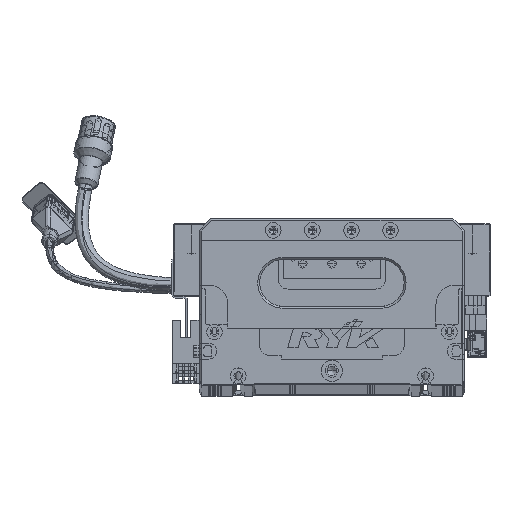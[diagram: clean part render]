
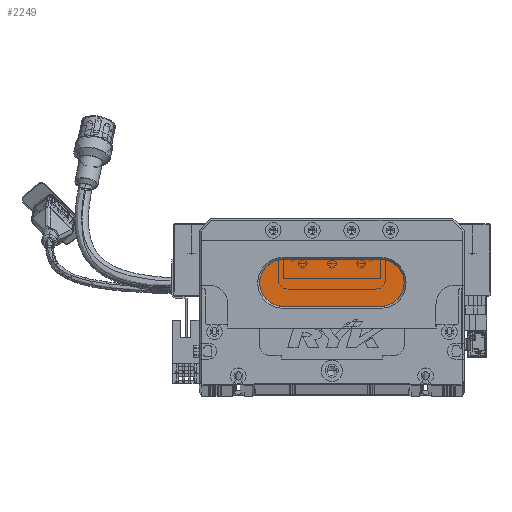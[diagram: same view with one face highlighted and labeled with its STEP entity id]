
A CAD part, top view. The second image highlights one B-rep face of the part: STEP entity #2249.
In plain terms, the highlighted planar face has unit normal (0, 0, 1) as drawn and (0, 0, -1) by its records, which use the part's own axes.
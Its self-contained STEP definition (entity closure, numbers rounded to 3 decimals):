
#2249 = ADVANCED_FACE ( 'NONE', ( #57504 ), #4765, .T. ) ;
#4765 = PLANE ( 'NONE',  #96975 ) ;
#8788 = ORIENTED_EDGE ( 'NONE', *, *, #10352, .T. ) ;
#8924 = CARTESIAN_POINT ( 'NONE',  ( 93., 64., 13. ) ) ;
#10352 = EDGE_CURVE ( 'NONE', #80430, #73986, #36398, .T. ) ;
#14093 = VECTOR ( 'NONE', #128668, 1000. ) ;
#19007 = DIRECTION ( 'NONE',  ( 0., 0., -1. ) ) ;
#22711 = CARTESIAN_POINT ( 'NONE',  ( 93., 40., 13. ) ) ;
#28627 = CARTESIAN_POINT ( 'NONE',  ( 43., 64., 13. ) ) ;
#36398 = CIRCLE ( 'NONE', #79054, 12. ) ;
#43542 = EDGE_CURVE ( 'NONE', #50135, #80430, #117055, .T. ) ;
#48972 = EDGE_CURVE ( 'NONE', #119338, #50135, #65618, .T. ) ;
#50135 = VERTEX_POINT ( 'NONE', #140867 ) ;
#50516 = CARTESIAN_POINT ( 'NONE',  ( 93., 64., 13. ) ) ;
#51837 = CARTESIAN_POINT ( 'NONE',  ( 93., 40., 13. ) ) ;
#53445 = ORIENTED_EDGE ( 'NONE', *, *, #48972, .T. ) ;
#57504 = FACE_OUTER_BOUND ( 'NONE', #66884, .T. ) ;
#59060 = AXIS2_PLACEMENT_3D ( 'NONE', #85844, #19007, #130753 ) ;
#60342 = VECTOR ( 'NONE', #84570, 1000. ) ;
#65618 = LINE ( 'NONE', #51837, #60342 ) ;
#66884 = EDGE_LOOP ( 'NONE', ( #111104, #53445, #92491, #8788, #78719 ) ) ;
#73873 = AXIS2_PLACEMENT_3D ( 'NONE', #135416, #79772, #113943 ) ;
#73986 = VERTEX_POINT ( 'NONE', #28627 ) ;
#74904 = EDGE_CURVE ( 'NONE', #115768, #119338, #125855, .T. ) ;
#78719 = ORIENTED_EDGE ( 'NONE', *, *, #86281, .T. ) ;
#79054 = AXIS2_PLACEMENT_3D ( 'NONE', #142756, #87101, #133008 ) ;
#79772 = DIRECTION ( 'NONE',  ( 0., 0., -1. ) ) ;
#80430 = VERTEX_POINT ( 'NONE', #105229 ) ;
#82838 = DIRECTION ( 'NONE',  ( 0., 0., -1. ) ) ;
#84570 = DIRECTION ( 'NONE',  ( -1., 0., 0. ) ) ;
#85844 = CARTESIAN_POINT ( 'NONE',  ( 43., 52., 13. ) ) ;
#86281 = EDGE_CURVE ( 'NONE', #73986, #115768, #130994, .T. ) ;
#87101 = DIRECTION ( 'NONE',  ( 0., 0., -1. ) ) ;
#92491 = ORIENTED_EDGE ( 'NONE', *, *, #43542, .T. ) ;
#96975 = AXIS2_PLACEMENT_3D ( 'NONE', #104379, #82838, #138020 ) ;
#104379 = CARTESIAN_POINT ( 'NONE',  ( 93., 52., 13. ) ) ;
#105229 = CARTESIAN_POINT ( 'NONE',  ( 31., 52., 13. ) ) ;
#111104 = ORIENTED_EDGE ( 'NONE', *, *, #74904, .T. ) ;
#113943 = DIRECTION ( 'NONE',  ( -1., 0., 0. ) ) ;
#115768 = VERTEX_POINT ( 'NONE', #8924 ) ;
#117055 = CIRCLE ( 'NONE', #59060, 12. ) ;
#119338 = VERTEX_POINT ( 'NONE', #22711 ) ;
#125855 = CIRCLE ( 'NONE', #73873, 12. ) ;
#128668 = DIRECTION ( 'NONE',  ( 1., 0., 0. ) ) ;
#130753 = DIRECTION ( 'NONE',  ( -1., 0., 0. ) ) ;
#130994 = LINE ( 'NONE', #50516, #14093 ) ;
#133008 = DIRECTION ( 'NONE',  ( -1., 0., 0. ) ) ;
#135416 = CARTESIAN_POINT ( 'NONE',  ( 93., 52., 13. ) ) ;
#138020 = DIRECTION ( 'NONE',  ( -1., 0., 0. ) ) ;
#140867 = CARTESIAN_POINT ( 'NONE',  ( 43., 40., 13. ) ) ;
#142756 = CARTESIAN_POINT ( 'NONE',  ( 43., 52., 13. ) ) ;
